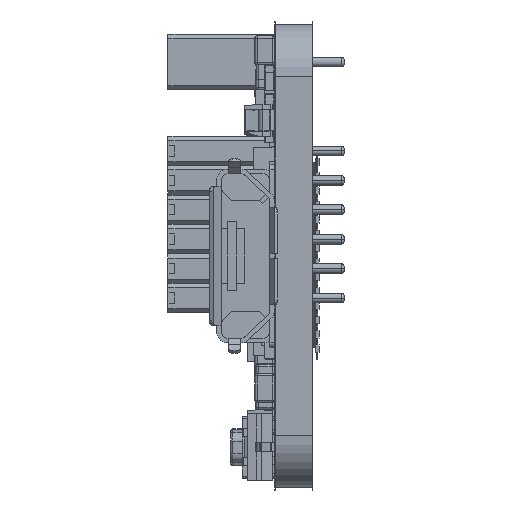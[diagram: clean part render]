
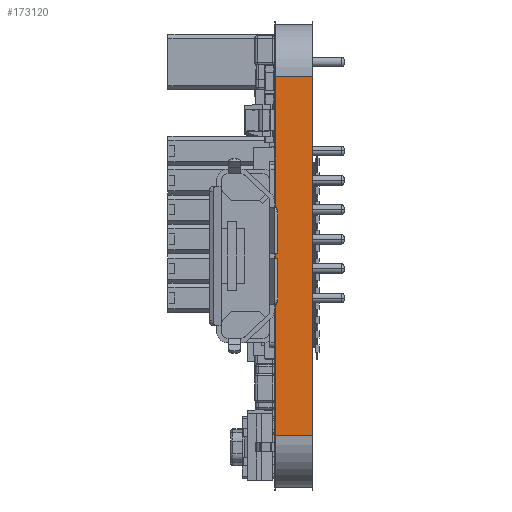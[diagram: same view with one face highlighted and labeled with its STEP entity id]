
A CAD part, left-side view. The second image highlights one B-rep face of the part: STEP entity #173120.
In plain terms, the highlighted planar face has unit normal (-1, 0, 0).
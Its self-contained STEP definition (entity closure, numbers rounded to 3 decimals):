
#20616 = LINE ( 'NONE', #23339, #20620 ) ;
#20620 = VECTOR ( 'NONE', #23342, 1000. ) ;
#20631 = LINE ( 'NONE', #23372, #20635 ) ;
#20635 = VECTOR ( 'NONE', #23376, 1000. ) ;
#21076 = LINE ( 'NONE', #24484, #21080 ) ;
#21080 = VECTOR ( 'NONE', #24487, 1000. ) ;
#21089 = LINE ( 'NONE', #24508, #21090 ) ;
#21090 = VECTOR ( 'NONE', #24511, 1000. ) ;
#21092 = LINE ( 'NONE', #24516, #21094 ) ;
#21094 = VECTOR ( 'NONE', #24519, 1000. ) ;
#21095 = LINE ( 'NONE', #24524, #21097 ) ;
#21097 = VECTOR ( 'NONE', #24526, 1000. ) ;
#21099 = LINE ( 'NONE', #24532, #21101 ) ;
#21101 = VECTOR ( 'NONE', #24536, 1000. ) ;
#21103 = LINE ( 'NONE', #24541, #21105 ) ;
#21105 = VECTOR ( 'NONE', #24544, 1000. ) ;
#21107 = LINE ( 'NONE', #24550, #21109 ) ;
#21109 = VECTOR ( 'NONE', #24553, 1000. ) ;
#21111 = LINE ( 'NONE', #24557, #21113 ) ;
#21113 = VECTOR ( 'NONE', #24560, 1000. ) ;
#23339 = CARTESIAN_POINT ( 'NONE',  ( 100., 0., -117.75 ) ) ;
#23342 = DIRECTION ( 'NONE',  ( 0., 0., 1. ) ) ;
#23372 = CARTESIAN_POINT ( 'NONE',  ( 100., 0., -117.75 ) ) ;
#23376 = DIRECTION ( 'NONE',  ( 0., 0., 1. ) ) ;
#24484 = CARTESIAN_POINT ( 'NONE',  ( 100., -1.6, -102.25 ) ) ;
#24487 = DIRECTION ( 'NONE',  ( 0., 1., 0. ) ) ;
#24508 = CARTESIAN_POINT ( 'NONE',  ( 100., 0., -117.75 ) ) ;
#24511 = DIRECTION ( 'NONE',  ( 0., 0., 1. ) ) ;
#24516 = CARTESIAN_POINT ( 'NONE',  ( 100., -1.6, -117.75 ) ) ;
#24519 = DIRECTION ( 'NONE',  ( 0., 1., 0. ) ) ;
#24524 = CARTESIAN_POINT ( 'NONE',  ( 100., -1.6, -117.75 ) ) ;
#24526 = DIRECTION ( 'NONE',  ( 0., 0., 1. ) ) ;
#24532 = CARTESIAN_POINT ( 'NONE',  ( 100., -1.6, -117.75 ) ) ;
#24536 = DIRECTION ( 'NONE',  ( 0., 0., 1. ) ) ;
#24541 = CARTESIAN_POINT ( 'NONE',  ( 100., -1.6, -117.75 ) ) ;
#24544 = DIRECTION ( 'NONE',  ( 0., 0., 1. ) ) ;
#24550 = CARTESIAN_POINT ( 'NONE',  ( 100., 0., -117.75 ) ) ;
#24553 = DIRECTION ( 'NONE',  ( 0., 0., -1. ) ) ;
#24557 = CARTESIAN_POINT ( 'NONE',  ( 100., 0., -117.75 ) ) ;
#24560 = DIRECTION ( 'NONE',  ( 0., 0., 1. ) ) ;
#58293 = AXIS2_PLACEMENT_3D ( 'NONE', #67240, #67243, #67246 ) ;
#67235 = PLANE ( 'NONE',  #58293 ) ;
#67240 = CARTESIAN_POINT ( 'NONE',  ( 100., -1.6, -117.75 ) ) ;
#67243 = DIRECTION ( 'NONE',  ( -1., 0., 0. ) ) ;
#67246 = DIRECTION ( 'NONE',  ( 0., 0., 1. ) ) ;
#77363 = FACE_OUTER_BOUND ( 'NONE', #184672, .T. ) ;
#87207 = EDGE_CURVE ( 'NONE', #100782, #101212, #20616, .T. ) ;
#87227 = EDGE_CURVE ( 'NONE', #162638, #162553, #20631, .T. ) ;
#87749 = EDGE_CURVE ( 'NONE', #100847, #100857, #21076, .T. ) ;
#87757 = EDGE_CURVE ( 'NONE', #100824, #100782, #21089, .T. ) ;
#87760 = EDGE_CURVE ( 'NONE', #100823, #100824, #21092, .T. ) ;
#87764 = EDGE_CURVE ( 'NONE', #100823, #100816, #21095, .T. ) ;
#87768 = EDGE_CURVE ( 'NONE', #100816, #100807, #21099, .T. ) ;
#87772 = EDGE_CURVE ( 'NONE', #100807, #100847, #21103, .T. ) ;
#87775 = EDGE_CURVE ( 'NONE', #100857, #162553, #21107, .T. ) ;
#87780 = EDGE_CURVE ( 'NONE', #101212, #162638, #21111, .T. ) ;
#100782 = VERTEX_POINT ( 'NONE', #182284 ) ;
#100807 = VERTEX_POINT ( 'NONE', #182334 ) ;
#100816 = VERTEX_POINT ( 'NONE', #182353 ) ;
#100823 = VERTEX_POINT ( 'NONE', #182368 ) ;
#100824 = VERTEX_POINT ( 'NONE', #182369 ) ;
#100847 = VERTEX_POINT ( 'NONE', #182413 ) ;
#100857 = VERTEX_POINT ( 'NONE', #182433 ) ;
#101212 = VERTEX_POINT ( 'NONE', #183254 ) ;
#114936 = ORIENTED_EDGE ( 'NONE', *, *, #87760, .F. ) ;
#114959 = ORIENTED_EDGE ( 'NONE', *, *, #87207, .F. ) ;
#114963 = ORIENTED_EDGE ( 'NONE', *, *, #87780, .F. ) ;
#114964 = ORIENTED_EDGE ( 'NONE', *, *, #87775, .T. ) ;
#114965 = ORIENTED_EDGE ( 'NONE', *, *, #87227, .F. ) ;
#114966 = ORIENTED_EDGE ( 'NONE', *, *, #87749, .T. ) ;
#114967 = ORIENTED_EDGE ( 'NONE', *, *, #87772, .T. ) ;
#114968 = ORIENTED_EDGE ( 'NONE', *, *, #87768, .T. ) ;
#114969 = ORIENTED_EDGE ( 'NONE', *, *, #87764, .T. ) ;
#114972 = ORIENTED_EDGE ( 'NONE', *, *, #87757, .F. ) ;
#127501 = CARTESIAN_POINT ( 'NONE',  ( 100., 0., -102.929 ) ) ;
#127818 = CARTESIAN_POINT ( 'NONE',  ( 100., 0., -106.163 ) ) ;
#162553 = VERTEX_POINT ( 'NONE', #127501 ) ;
#162638 = VERTEX_POINT ( 'NONE', #127818 ) ;
#173120 = ADVANCED_FACE ( 'NONE', ( #77363 ), #67235, .T. ) ;
#182284 = CARTESIAN_POINT ( 'NONE',  ( 100., 0., -117.071 ) ) ;
#182334 = CARTESIAN_POINT ( 'NONE',  ( 100., -1.6, -102.929 ) ) ;
#182353 = CARTESIAN_POINT ( 'NONE',  ( 100., -1.6, -117.071 ) ) ;
#182368 = CARTESIAN_POINT ( 'NONE',  ( 100., -1.6, -117.75 ) ) ;
#182369 = CARTESIAN_POINT ( 'NONE',  ( 100., 0., -117.75 ) ) ;
#182413 = CARTESIAN_POINT ( 'NONE',  ( 100., -1.6, -102.25 ) ) ;
#182433 = CARTESIAN_POINT ( 'NONE',  ( 100., 0., -102.25 ) ) ;
#183254 = CARTESIAN_POINT ( 'NONE',  ( 100., 0., -113.862 ) ) ;
#184672 = EDGE_LOOP ( 'NONE', ( #114972, #114936, #114969, #114968, #114967, #114966, #114964, #114965, #114963, #114959 ) ) ;
